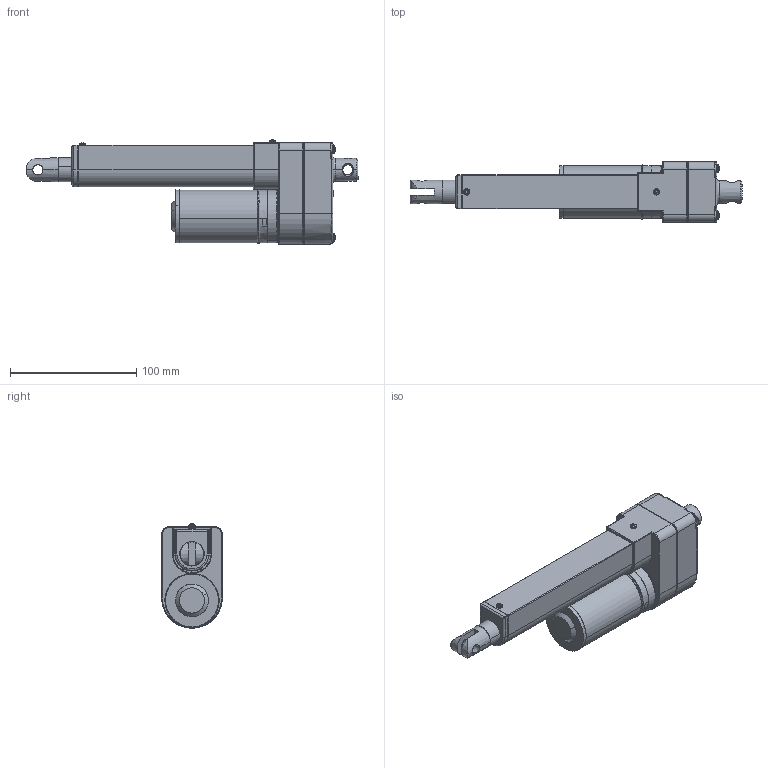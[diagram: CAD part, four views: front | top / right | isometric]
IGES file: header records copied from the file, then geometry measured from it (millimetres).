
Start section: SolidWorks IGES file using analytic representation for surfaces
Global section: file name: S:\W110B\La_3D\LAS2\LAS2ｲﾕｦXｹﾏ_Stroke=100.IGS; native system: SolidWorks 2009; preprocessor: SolidWorks 2009; author: fang; date: 110518.171141; units: millimetre
Bounding box: 263.4 x 48 x 82.79 mm (x, y, z)
Surface area: 73938.2 mm2 (no closed solid volume)
Topology: 0 solids, 0 shells, 399 faces, 6439 edges, 6423 vertices
Faces by surface type: bspline 280, revolution 119
